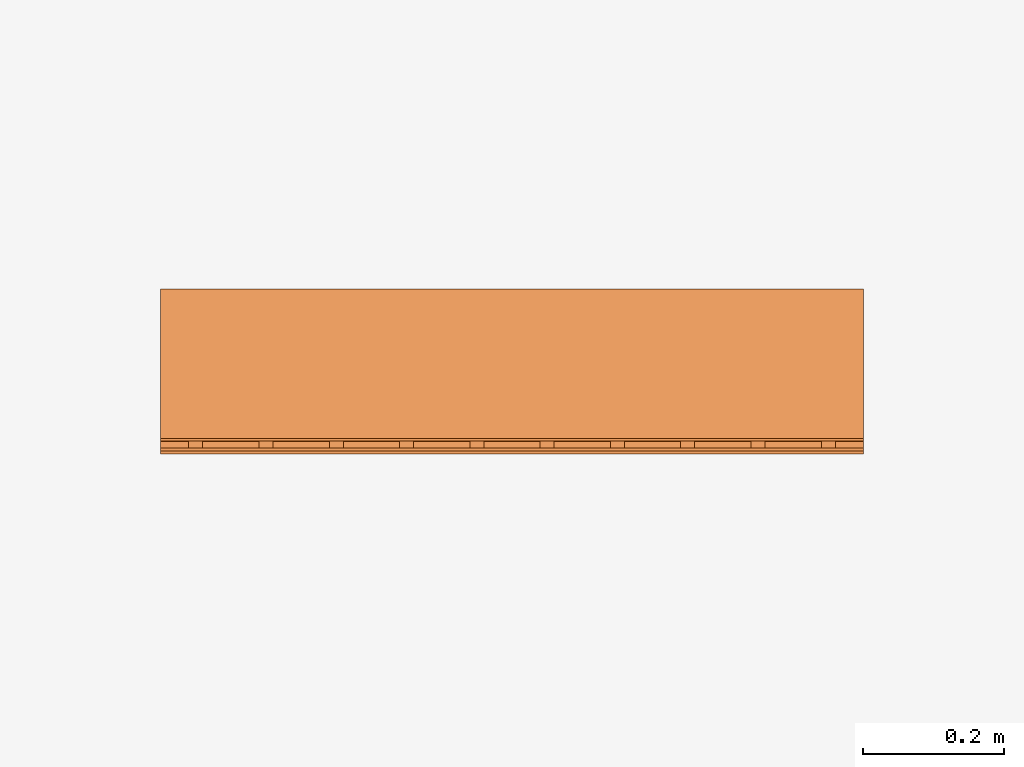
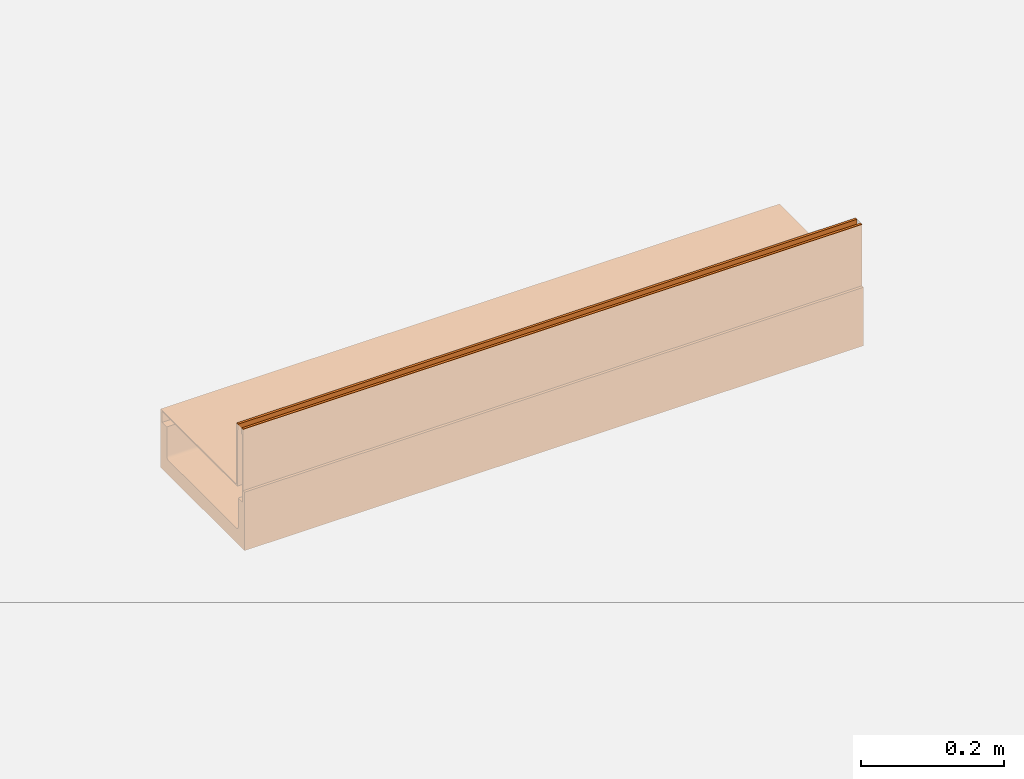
# One storey, part 2 of 2: 1 proxy.
"""IFC2X3 building model written with IfcOpenShell, lengths in millimetres."""

from ifc_helpers import new_model, entity, si_unit, converted_unit, direction, frame, frame_2d, origin, place, context, subcontext, project, spatial, polyline, circle_curve, parameter, trimmed, segment, composite_curve, outline, extrude, source, transform, mapped, material, material_list, element, save


model = new_model("IFC2X3")

# Units and contexts
model_context = context("Model", 3, precision=1e-06, world=origin(), true_north=direction((2.0, 6.12303176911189e-17, 1.0)))
context_of_model = context(None, 3, precision=1e-06, world=origin(), true_north=direction((2.0, 6.12303176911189e-17, 1.0)))
body_context = subcontext(model_context, "Body", "Model", "MODEL_VIEW")
ifc_project = project(units=[si_unit("LENGTHUNIT", "METRE", prefix="MILLI"), si_unit("AREAUNIT", "SQUARE_METRE", prefix="MILLI"), si_unit("VOLUMEUNIT", "CUBIC_METRE", prefix="MILLI"), converted_unit("PLANEANGLEUNIT", "DEGREE", entity("IfcRatioMeasure", 0.0174532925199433), si_unit("PLANEANGLEUNIT", "RADIAN"), dimensions=[0, 0, 0, 0, 0, 0, 0]), si_unit("TIMEUNIT", "SECOND")], contexts=[model_context, context_of_model])

# Site, building, storey
site_placement = place(None, origin())
site = spatial("IfcSite", under=ifc_project, at=site_placement, Name="Default", CompositionType="ELEMENT")
building_placement = place(site_placement, origin())
building = spatial("IfcBuilding", under=site, at=building_placement, CompositionType="ELEMENT")
storey_placement = place(building_placement, origin())
storey = spatial("IfcBuildingStorey", under=building, at=storey_placement, Name="Level 1", CompositionType="ELEMENT", Elevation=0.0)

# Proxy
ifc_material_1 = material(Name="Steel, Galvanized")
ifc_material_2 = material(Name="Vienite® Synthetic Resin Concrete")
ifc_material_list = material_list([ifc_material_1, ifc_material_2])
shared_shape = source(origin(), body_context, "Body", "SweptSolid", [
    extrude(outline(polyline([(-9.25, -10.0), (9.25000000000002, -10.0), (9.25, 10.0), (-9.25000000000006, 10.0), (-9.25, -10.0)]), holes=[polyline([(7.25000000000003, -8.0), (-7.25000000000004, -8.0), (-7.25000000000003, 8.0), (7.24999999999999, 8.0), (7.25000000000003, -8.0)])]), frame((-111.250000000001, 150.0, -116.2499999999), z_axis=(1.0, 0.0, 0.0), x_axis=(0.0, 0.0, -1.0)), (0.0, 0.0, 1.0), 224.5),
    extrude(outline(polyline([(-9.24999999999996, -10.0), (9.25000000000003, -10.0), (9.24999999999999, 10.0), (-9.25000000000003, 10.0), (-9.24999999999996, -10.0)]), holes=[polyline([(7.25000000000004, -8.0), (-7.25, -8.0), (-7.25000000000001, 8.0), (7.24999999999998, 8.0), (7.25000000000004, -8.0)])]), frame((-111.25, 250.0, -116.2499999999), z_axis=(1.0, 0.0, 0.0), x_axis=(0.0, 0.0, -1.0)), (0.0, 0.0, 1.0), 224.5),
    extrude(outline(polyline([(-9.24999999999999, -10.0), (9.25000000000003, -10.0), (9.24999999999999, 10.0), (-9.25000000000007, 10.0), (-9.24999999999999, -10.0)]), holes=[polyline([(7.25000000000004, -8.0), (-7.25000000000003, -8.0), (-7.25000000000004, 8.0), (7.24999999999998, 8.0), (7.25000000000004, -8.0)])]), frame((-111.250000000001, 350.0, -116.2499999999), z_axis=(1.0, 0.0, 0.0), x_axis=(0.0, 0.0, -1.0)), (0.0, 0.0, 1.0), 224.5),
    extrude(outline(polyline([(-9.24999999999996, -10.0), (9.25000000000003, -10.0), (9.24999999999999, 10.0), (-9.25000000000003, 10.0), (-9.24999999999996, -10.0)]), holes=[polyline([(7.25000000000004, -8.0), (-7.25000000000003, -8.0), (-7.25000000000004, 8.0), (7.24999999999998, 8.0), (7.25000000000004, -8.0)])]), frame((-111.250000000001, 450.0, -116.2499999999), z_axis=(1.0, 0.0, 0.0), x_axis=(0.0, 0.0, -1.0)), (0.0, 0.0, 1.0), 224.5),
    extrude(outline(polyline([(-9.24999999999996, -10.0), (9.25000000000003, -10.0), (9.25, 10.0), (-9.25000000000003, 10.0), (-9.24999999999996, -10.0)]), holes=[polyline([(7.25000000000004, -8.0), (-7.25, -8.0), (-7.25, 8.0), (7.24999999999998, 8.0), (7.25000000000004, -8.0)])]), frame((-111.250000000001, 50.0, -116.2499999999), z_axis=(1.0, 0.0, 0.0), x_axis=(0.0, 0.0, -1.0)), (0.0, 0.0, 1.0), 224.5),
    extrude(outline(polyline([(-9.24999999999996, -10.0), (9.25000000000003, -10.0), (9.24999999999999, 10.0), (-9.25000000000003, 10.0), (-9.24999999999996, -10.0)]), holes=[polyline([(7.25000000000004, -8.0), (-7.25, -8.0), (-7.25000000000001, 8.0), (7.24999999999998, 8.0), (7.25000000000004, -8.0)])]), frame((-111.25, 550.0, -116.2499999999), z_axis=(1.0, 0.0, 0.0), x_axis=(0.0, 0.0, -1.0)), (0.0, 0.0, 1.0), 224.5),
    extrude(outline(polyline([(-9.25000000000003, -10.0), (9.24999999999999, -10.0), (9.25000000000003, 10.0), (-9.25000000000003, 10.0), (-9.25000000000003, -10.0)]), holes=[polyline([(7.25000000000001, -8.0), (-7.25000000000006, -8.0), (-7.25000000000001, 8.0), (7.25000000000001, 8.0), (7.25000000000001, -8.0)])]), frame((-111.25, 650.0, -116.2499999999), z_axis=(1.0, 0.0, 0.0), x_axis=(0.0, 0.0, -1.0)), (0.0, 0.0, 1.0), 224.5),
    extrude(outline(polyline([(-9.24999999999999, -10.0), (9.24999999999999, -10.0), (9.25000000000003, 10.0), (-9.24999999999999, 10.0), (-9.24999999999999, -10.0)]), holes=[polyline([(7.25000000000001, -8.0), (-7.25000000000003, -8.0), (-7.24999999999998, 8.0), (7.25000000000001, 8.0), (7.25000000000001, -8.0)])]), frame((-111.25, 750.0, -116.2499999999), z_axis=(1.0, 0.0, 0.0), x_axis=(0.0, 0.0, -1.0)), (0.0, 0.0, 1.0), 224.5),
    extrude(outline(polyline([(-9.25000000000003, -10.0), (9.24999999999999, -10.0), (9.25000000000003, 10.0), (-9.25000000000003, 10.0), (-9.25000000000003, -10.0)]), holes=[polyline([(7.25000000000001, -8.0), (-7.25000000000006, -8.0), (-7.25000000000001, 8.0), (7.25000000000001, 8.0), (7.25000000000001, -8.0)])]), frame((-111.25, 850.0, -116.2499999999), z_axis=(1.0, 0.0, 0.0), x_axis=(0.0, 0.0, -1.0)), (0.0, 0.0, 1.0), 224.5),
    extrude(outline(polyline([(-9.25000000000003, -10.0), (9.24999999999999, -10.0), (9.25000000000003, 10.0), (-9.25000000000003, 10.0), (-9.25000000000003, -10.0)]), holes=[polyline([(7.25000000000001, -8.0), (-7.25000000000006, -8.0), (-7.25000000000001, 8.0), (7.25000000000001, 8.0), (7.25000000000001, -8.0)])]), frame((-111.249999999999, 950.0, -116.24999999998), z_axis=(1.0, 0.0, 0.0), x_axis=(0.0, 0.0, -1.0)), (0.0, 0.0, 1.0), 224.5),
    extrude(outline(polyline([(45.5000000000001, -54.6250000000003), (55.5000000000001, -54.6250000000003), (55.5000000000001, -50.6250000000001), (-49.4999999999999, -50.6250000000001), (-49.5000000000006, 157.875), (-51.5000000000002, 157.875), (-51.4999999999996, -52.6249999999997), (45.5000000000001, -52.6249999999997), (45.5000000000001, -54.6250000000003)])), frame((-44.6250000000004, 0.0, -55.4999999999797), z_axis=(0.0, 1.0, 0.0), x_axis=(0.0, 0.0, 1.0)), (0.0, 0.0, 1.0), 1000.0),
    extrude(outline(polyline([(-80.3333333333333, -2.0), (45.1666666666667, -2.0), (45.1666666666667, 2.0), (35.1666666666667, 2.0), (35.1666666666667, 0.0), (-80.3333333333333, 0.0), (-80.3333333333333, -2.0)])), frame((-111.250000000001, 0.0, -45.1666666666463), z_axis=(0.0, 1.0, 0.0), x_axis=(0.0, 0.0, 1.0)), (0.0, 0.0, 1.0), 1000.0),
    extrude(outline(composite_curve([segment(polyline([(-40.857142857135, -117.499999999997), (59.1428571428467, -117.499999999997)]), True, "CONTINUOUS"), segment(polyline([(59.1428571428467, -117.499999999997), (59.1428571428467, 117.499999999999)]), True, "CONTINUOUS"), segment(polyline([(59.1428571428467, 117.499999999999), (-40.857142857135, 117.499999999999)]), True, "CONTINUOUS"), segment(polyline([(-40.857142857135, 117.499999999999), (-40.857142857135, 113.249999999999)]), True, "CONTINUOUS"), segment(polyline([(-40.857142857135, 113.249999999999), (-20.357142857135, 113.249999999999)]), True, "CONTINUOUS"), segment(polyline([(-20.357142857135, 113.249999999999), (-20.357142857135, 100.0)]), True, "CONTINUOUS"), segment(polyline([(-20.357142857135, 100.0), (29.1428571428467, 100.0)]), True, "CONTINUOUS"), segment(trimmed(circle_curve(frame_2d((29.1428571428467, 95.0), x_axis=(0.0, -1.0)), 5.0), [parameter(90.0000000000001)], [parameter(180.0)], True, "PARAMETER"), False, "CONTINUOUS"), segment(polyline([(34.1428571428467, 95.0), (34.1428571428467, -95.0)]), True, "CONTINUOUS"), segment(trimmed(circle_curve(frame_2d((29.1428571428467, -95.0), x_axis=(0.0, -1.0)), 5.0), [parameter(360.0)], [parameter(89.9999999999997)], True, "PARAMETER"), False, "CONTINUOUS"), segment(polyline([(29.1428571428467, -100.0), (-20.3571428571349, -100.0)]), True, "CONTINUOUS"), segment(polyline([(-20.3571428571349, -100.0), (-20.3571428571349, -113.25)]), True, "CONTINUOUS"), segment(polyline([(-20.3571428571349, -113.25), (-40.857142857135, -113.25)]), True, "CONTINUOUS"), segment(polyline([(-40.857142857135, -113.25), (-40.857142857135, -117.499999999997)]), True, "CONTINUOUS")], self_intersect=False)), frame((0.0, 0.0, -145.857142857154), z_axis=(0.0, 1.0, 0.0), x_axis=(0.0, 0.0, -1.0)), (0.0, 0.0, 1.0), 1000.0),
])
proxy_placement = place(storey_placement, frame((495.16587281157, 167.633200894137, 0.0), z_axis=(0.0, 0.0, 1.0), x_axis=(0.0, 1.0, 0.0)))
element("IfcBuildingElementProxy", 1, at=proxy_placement, inside=storey, material=ifc_material_list, Name="Civil-Drainage-Channel-ACO-MultiDrain-M200D-Brickslot-Channel-System:23216 - No 0100 Constant Depth Channel - 1000mm LG - Invert Depth 75mm:23216 - No 0100 Constant Depth Channel - 1000mm LG - Invert Depth 75mm", ObjectType="23216 - No 0100 Constant Depth Channel - 1000mm LG - Invert Depth 75mm", CompositionType="ELEMENT", context=body_context, shape_type="MappedRepresentation", body=[
    mapped(shared_shape, transform((0.0, 0.0, 0.0), scale=1.0)),
])

save(model, "model.ifc")
